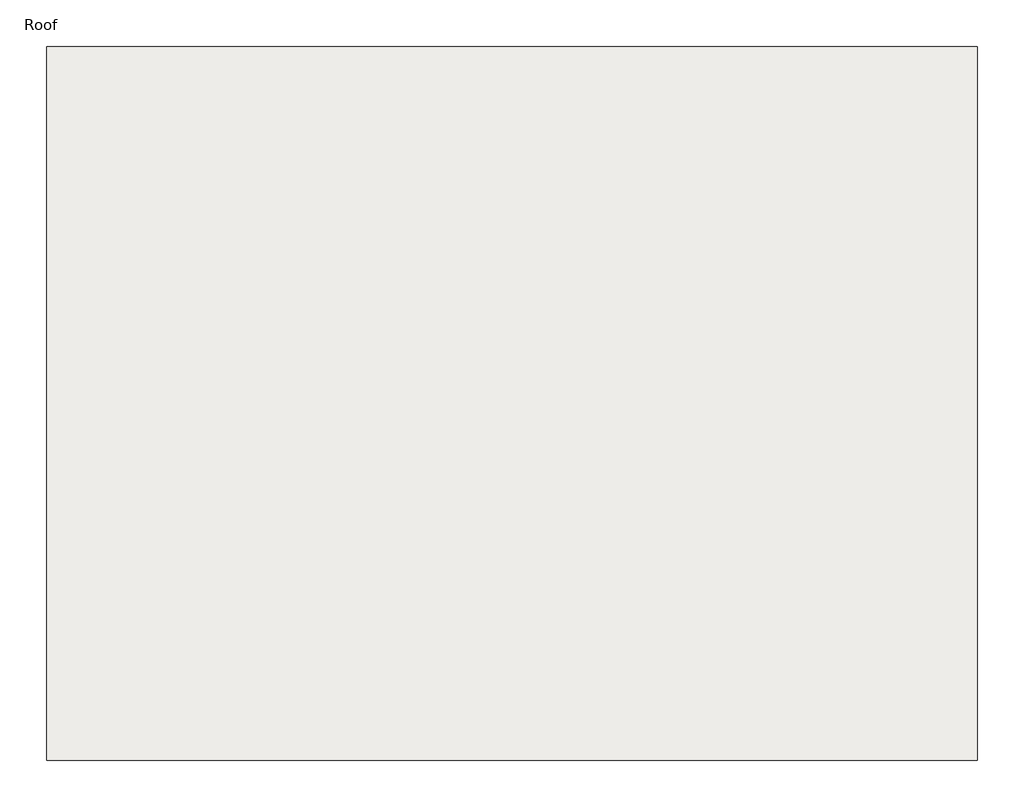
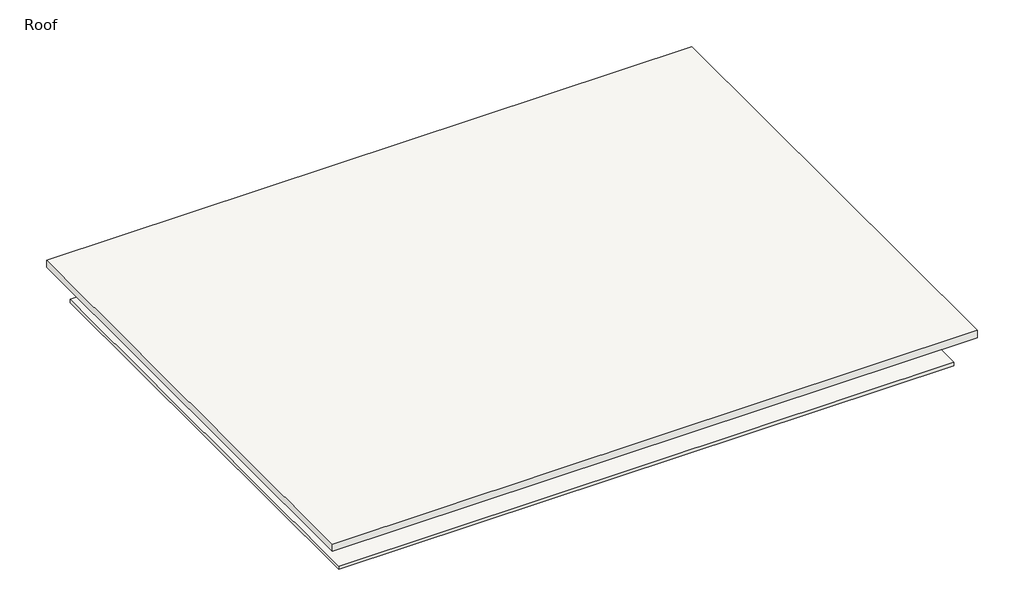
# One storey: 1 roof, 1 slab.
"""IFC4 building model written with IfcOpenShell, lengths in millimetres."""

import ifcopenshell
import ifcopenshell.guid

model = None  # the IFC model being written
_history = None  # IfcOwnerHistory: only IFC2X3 demands one
_inside = {}  # id of a spatial element -> (the spatial element, [elements in it])
_under = {}  # id of a project, library or spatial element -> (it, [spatial elements below it])
_declared = {}  # id of a project -> (the project, [libraries it declares])
_typed = {}  # id of a type object -> (the type object, [elements of that type])
_made_of = {}  # id of a material, layer set ... -> (it, [elements and type objects made of it])


def new_model(schema):
    """Start an empty IFC model of exactly this schema.

    Asked for "IFC4X3", IfcOpenShell would pick the latest addendum, in which some entities
    have other attributes; the version numbers below select the first issue.
    IFC2X3 requires an IfcOwnerHistory on every rooted entity: one is made here for all.
    """
    global model, _history
    if schema == "IFC4X3":
        model = ifcopenshell.file(schema_version=(4, 3, 0, 0))
    else:
        model = ifcopenshell.file(schema=schema)
    _inside.clear()
    _under.clear()
    _declared.clear()
    _typed.clear()
    _made_of.clear()
    _history = None
    if model.schema == "IFC2X3":
        org = make("IfcOrganization", Name="unknown")
        user = make(
            "IfcPersonAndOrganization",
            ThePerson=make("IfcPerson", FamilyName="unknown"),
            TheOrganization=org,
        )
        app = make(
            "IfcApplication",
            ApplicationDeveloper=org,
            Version="unknown",
            ApplicationFullName="unknown",
            ApplicationIdentifier="unknown",
        )
        _history = make(
            "IfcOwnerHistory",
            OwningUser=user,
            OwningApplication=app,
            ChangeAction="ADDED",
            CreationDate=0,
        )
    return model


def make(cls, **values):
    """One entity of the class cls with the attributes given. An attribute that is None is left unset."""
    return model.create_entity(
        cls, **{name: value for name, value in values.items() if value is not None}
    )


def rooted(cls, **values):
    """An entity with a GlobalId (a new one), such as an element, a storey or a relation."""
    return make(cls, GlobalId=ifcopenshell.guid.new(), OwnerHistory=_history, **values)


def si_unit(unit_type, name, prefix=None):
    """IfcSIUnit, for example si_unit("LENGTHUNIT", "METRE", prefix="MILLI")."""
    return make("IfcSIUnit", UnitType=unit_type, Prefix=prefix, Name=name)


def assignment(units):
    """IfcUnitAssignment: the units of a project."""
    return None if units is None else make("IfcUnitAssignment", Units=units)


def point(xyz):
    """IfcCartesianPoint."""
    return None if xyz is None else make("IfcCartesianPoint", Coordinates=xyz)


def direction(xyz):
    """IfcDirection."""
    return None if xyz is None else make("IfcDirection", DirectionRatios=xyz)


def frame(location, z_axis=None, x_axis=None):
    """IfcAxis2Placement3D, a coordinate frame: its origin and axes. An axis left out is left unset."""
    return make(
        "IfcAxis2Placement3D",
        Location=point(location),
        Axis=direction(z_axis),
        RefDirection=direction(x_axis),
    )


def origin():
    """The frame at (0, 0, 0) with its axes left unset."""
    return frame((0.0, 0.0, 0.0))


def place(relative_to, where):
    """IfcLocalPlacement: puts the frame where relative to a parent placement (None: the world)."""
    return make(
        "IfcLocalPlacement", PlacementRelTo=relative_to, RelativePlacement=where
    )


def context(
    kind, dimensions, precision=None, world=None, true_north=None, identifier=None
):
    """IfcGeometricRepresentationContext, for example the 3D "Model" context."""
    return make(
        "IfcGeometricRepresentationContext",
        ContextIdentifier=identifier,
        ContextType=kind,
        CoordinateSpaceDimension=dimensions,
        Precision=precision,
        WorldCoordinateSystem=world,
        TrueNorth=true_north,
    )


def project(units=None, contexts=None):
    """IfcProject with its units and contexts."""
    return rooted(
        "IfcProject",
        Name="project",
        RepresentationContexts=contexts,
        UnitsInContext=assignment(units),
    )


def spatial(cls, under=None, at=None, **own):
    """A site, building, storey or space (cls), placed at a placement, below another one or the project."""
    s = rooted(cls, ObjectPlacement=at, **own)
    if under is not None:
        _under.setdefault(under.id(), (under, []))[1].append(s)
    return s


def polyline(points):
    """IfcPolyline through the points."""
    return make("IfcPolyline", Points=[point(p) for p in points])


def outline(outer, holes=None, kind="AREA"):
    """IfcArbitraryClosedProfileDef: a profile drawn as a closed curve; with holes, ...WithVoids."""
    if holes is None:
        return make("IfcArbitraryClosedProfileDef", ProfileType=kind, OuterCurve=outer)
    return make(
        "IfcArbitraryProfileDefWithVoids",
        ProfileType=kind,
        OuterCurve=outer,
        InnerCurves=holes,
    )


def extrude(swept, where, along, depth):
    """IfcExtrudedAreaSolid: the profile swept, set in the frame where, extruded along a direction by depth."""
    return make(
        "IfcExtrudedAreaSolid",
        SweptArea=swept,
        Position=where,
        ExtrudedDirection=direction(along),
        Depth=depth,
    )


def shape(context_of_items, identifier, shape_type, items):
    """IfcShapeRepresentation: the items that make up one representation, for example the "Body"."""
    return make(
        "IfcShapeRepresentation",
        ContextOfItems=context_of_items,
        RepresentationIdentifier=identifier,
        RepresentationType=shape_type,
        Items=items,
    )


def made_of(thing, what):
    """Note that an element or type object is made of a material, layer set ...; save() writes the relation."""
    if what is not None:
        _made_of.setdefault(what.id(), (what, []))[1].append(thing)
    return thing


def element(
    cls,
    number,
    at=None,
    inside=None,
    cuts=None,
    type_object=None,
    material=None,
    context=None,
    identifier="Body",
    shape_type=None,
    held_by="IfcProductDefinitionShape",
    body=None,
    shapes=None,
    **own,
):
    """One element of the class cls, such as IfcWall. Its Tag is "e" and its number.

    at: its placement. inside: the storey or other place that contains it. cuts: it is an
    opening in that element (IfcRelVoidsElement). A single representation is given by context,
    identifier, shape_type and body (its items); several are given by shapes. held_by: the class
    of the entity that holds the representations. save() writes the other relations.
    """
    e = rooted(cls, Tag="e%d" % number, ObjectPlacement=at, **own)
    if body is not None:
        shapes = [shape(context, identifier, shape_type, body)]
    if shapes is not None:
        e.Representation = make(held_by, Representations=shapes)
    if inside is not None:
        _inside.setdefault(inside.id(), (inside, []))[1].append(e)
    if cuts is not None:
        rooted(
            "IfcRelVoidsElement", RelatingBuildingElement=cuts, RelatedOpeningElement=e
        )
    if type_object is not None:
        _typed.setdefault(type_object.id(), (type_object, []))[1].append(e)
    return made_of(e, material)


def aggregate(whole, parts):
    """IfcRelAggregates: a whole, such as a stair, and the parts it consists of."""
    return rooted("IfcRelAggregates", RelatingObject=whole, RelatedObjects=parts)


def save(model, path):
    """Write the relations noted so far, then the file.

    IfcRelAggregates (storeys below a building ...), IfcRelContainedInSpatialStructure (elements
    in a storey), IfcRelDefinesByType, IfcRelAssociatesMaterial and IfcRelDeclares: one each for
    every whole, place, type object, material and project.
    """
    for whole, parts in _under.values():
        aggregate(whole, parts)
    for where, things in _inside.values():
        rooted(
            "IfcRelContainedInSpatialStructure",
            RelatedElements=things,
            RelatingStructure=where,
        )
    for kind, things in _typed.values():
        rooted("IfcRelDefinesByType", RelatedObjects=things, RelatingType=kind)
    for what, things in _made_of.values():
        rooted("IfcRelAssociatesMaterial", RelatedObjects=things, RelatingMaterial=what)
    for by, libraries in _declared.values():
        rooted("IfcRelDeclares", RelatingContext=by, RelatedDefinitions=libraries)
    model.write(path)


model = new_model("IFC4")

# Units and contexts
model_context = context("Model", 3, world=origin())
ifc_project = project(units=[si_unit("LENGTHUNIT", "METRE", prefix="MILLI")], contexts=[model_context])

# Site, building, storey
site = spatial("IfcSite", under=ifc_project)
building = spatial("IfcBuilding", under=site)
storey = spatial("IfcBuildingStorey", under=building, Name="Roof", Elevation=10972.8)

# Roof
placement = place(None, origin())
element("IfcRoof", 1, ObjectType="Generic - 9\"", at=placement, inside=storey, context=model_context, shape_type="SweptSolid", body=[
    extrude(outline(polyline([(-18875.5972136, 12601.4830992), (780.8277864, 12601.4830992), (780.8277864, -2482.9419008), (-18875.5972136, -2482.9419008), (-18875.5972136, 12601.4830992)])), frame((0.0, 0.0, 11887.2), z_axis=(0.0, 0.0, 1.0), x_axis=(1.0, 0.0, 0.0)), (0.0, 0.0, 1.0), 228.6),
])

# Slab
element("IfcSlab", 2, ObjectType="LW Concrete on Metal Deck", at=placement, inside=storey, context=model_context, shape_type="SweptSolid", body=[
    extrude(outline(polyline([(323.6277864, 12144.2830992), (323.6277864, -2025.7419008), (-18418.3972136, -2025.7419008), (-18418.3972136, 12144.2830992), (323.6277864, 12144.2830992)]), holes=[polyline([(-14298.8347136, 11690.2580992), (-17964.3722136, 11690.2580992), (-17964.3722136, 6811.8705992), (-14298.8347136, 6811.8705992), (-14298.8347136, 11690.2580992)])]), frame((0.0, 0.0, 10868.025), z_axis=(0.0, 0.0, 1.0), x_axis=(1.0, 0.0, 0.0)), (0.0, 0.0, 1.0), 104.775),
])

save(model, "model.ifc")
